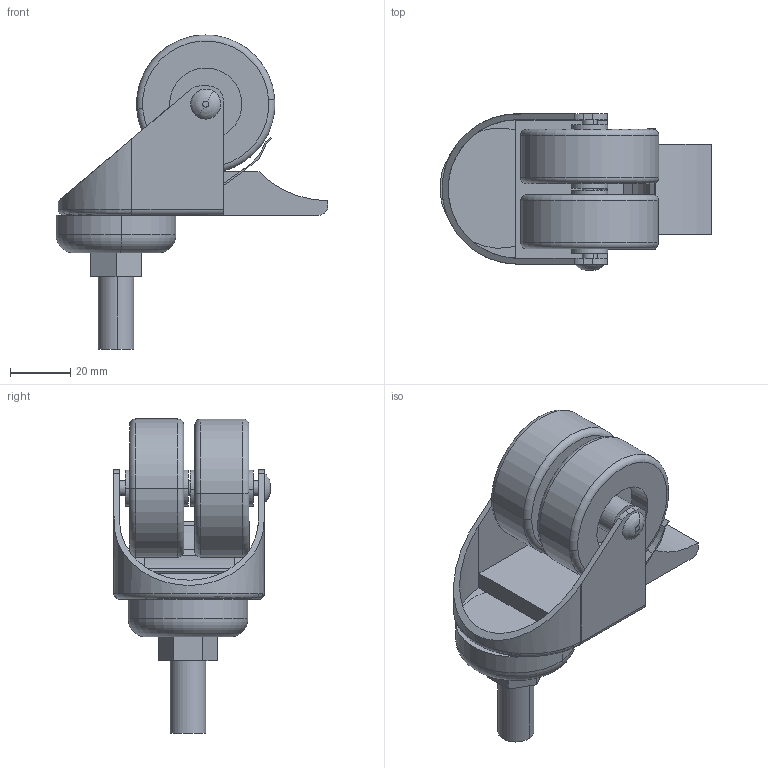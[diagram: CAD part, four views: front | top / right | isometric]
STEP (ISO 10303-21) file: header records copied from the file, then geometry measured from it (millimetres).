
FILE_DESCRIPTION (( 'STEP AP203' ), '1' );
FILE_NAME ('RSI937050.STEP', '2016-04-03T09:54:49', ( '' ), ( '' ), 'SwSTEP 2.0', 'SolidWorks 2014', '' );
FILE_SCHEMA (( 'CONFIG_CONTROL_DESIGN' ));
Length unit declared in the file: millimetre
Products named in the file (5): RSI937050; 膰錼勷; 闃膼瘔; 搿錓; ïîäøèáíèê
Assembly tree (5 placements, depth 2):
  RSI937050
    膰錼勷  x2
    闃膼瘔
    搿錓
    ïîäøèáíèê
Bounding box: 90.42 x 52.1 x 104.48 mm (x, y, z)
Volume: 95261.7 mm3; surface area: 37757.9 mm2
Topology: 5 solids, 5 shells, 133 faces, 315 edges, 204 vertices
Faces by surface type: plane 63, cylinder 54, torus 16
Entity records: 3890 total; most frequent: CARTESIAN_POINT 636, DIRECTION 602, ORIENTED_EDGE 542, EDGE_CURVE 271, AXIS2_PLACEMENT_3D 223, VERTEX_POINT 176, VECTOR 156, LINE 156
